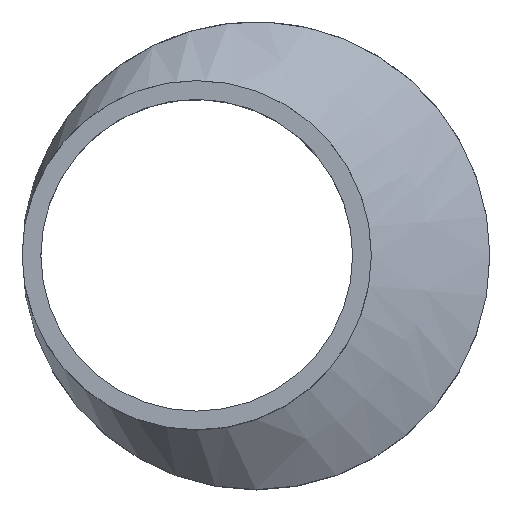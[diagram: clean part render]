
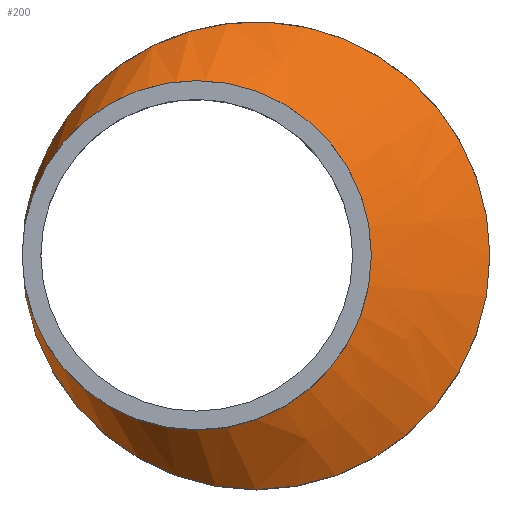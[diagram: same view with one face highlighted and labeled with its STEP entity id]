
A CAD part, top view. The second image highlights one B-rep face of the part: STEP entity #200.
In plain terms, the highlighted free-form (B-spline) face has degree [1, 2] with [2, 9] control points.
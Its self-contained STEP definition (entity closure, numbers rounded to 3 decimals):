
#15=B_SPLINE_CURVE_WITH_KNOTS($,1,(#381,#382),.UNSPECIFIED.,.F.,.F.,(2,
2),(-0.382,0.),.UNSPECIFIED.);
#17=(
BOUNDED_SURFACE()
B_SPLINE_SURFACE(1,2,((#359,#360,#361,#362,#363,#364,#365,#366,#367),(#368,
#369,#370,#371,#372,#373,#374,#375,#376)),.UNSPECIFIED.,.F.,.T.,.F.)
B_SPLINE_SURFACE_WITH_KNOTS((2,2),(3,2,2,2,3),(-1.188,0.739),
(-3.142,-1.571,0.,1.571,3.142),
 .UNSPECIFIED.)
GEOMETRIC_REPRESENTATION_ITEM()
RATIONAL_B_SPLINE_SURFACE(((1.,0.707,1.,0.707,1.,
0.707,1.,0.707,1.),(1.,0.707,1.,0.707,
1.,0.707,1.,0.707,1.)))
REPRESENTATION_ITEM($)
SURFACE()
);
#47=FACE_OUTER_BOUND($,#67,.T.);
#67=EDGE_LOOP($,(#157,#158,#159,#160,#161,#162));
#83=CIRCLE($,#221,37.5);
#84=CIRCLE($,#222,37.5);
#91=CIRCLE($,#231,28.);
#92=CIRCLE($,#232,28.);
#101=VERTEX_POINT($,#321);
#102=VERTEX_POINT($,#322);
#109=VERTEX_POINT($,#377);
#110=VERTEX_POINT($,#378);
#119=EDGE_CURVE($,#101,#102,#83,.T.);
#120=EDGE_CURVE($,#102,#101,#84,.T.);
#128=EDGE_CURVE($,#109,#110,#91,.T.);
#129=EDGE_CURVE($,#110,#109,#92,.T.);
#130=EDGE_CURVE($,#110,#102,#15,.T.);
#157=ORIENTED_EDGE($,*,*,#128,.F.);
#158=ORIENTED_EDGE($,*,*,#129,.F.);
#159=ORIENTED_EDGE($,*,*,#130,.T.);
#160=ORIENTED_EDGE($,*,*,#119,.F.);
#161=ORIENTED_EDGE($,*,*,#120,.F.);
#162=ORIENTED_EDGE($,*,*,#130,.F.);
#200=ADVANCED_FACE($,(#47),#17,.F.);
#221=AXIS2_PLACEMENT_3D($,#323,#266,#267);
#222=AXIS2_PLACEMENT_3D($,#324,#268,#269);
#231=AXIS2_PLACEMENT_3D($,#379,#286,#287);
#232=AXIS2_PLACEMENT_3D($,#380,#288,#289);
#266=DIRECTION('center_axis',(0.,0.,-1.));
#267=DIRECTION('ref_axis',(-1.,0.,0.));
#268=DIRECTION('center_axis',(0.,0.,-1.));
#269=DIRECTION('ref_axis',(-1.,0.,0.));
#286=DIRECTION('center_axis',(0.,0.,1.));
#287=DIRECTION('ref_axis',(-1.,0.,0.));
#288=DIRECTION('center_axis',(0.,0.,1.));
#289=DIRECTION('ref_axis',(-1.,0.,0.));
#321=CARTESIAN_POINT('',(37.5,0.,37.));
#322=CARTESIAN_POINT('',(-16.532,33.659,37.));
#323=CARTESIAN_POINT('Origin',(0.,0.,37.));
#324=CARTESIAN_POINT('Origin',(0.,0.,37.));
#359=CARTESIAN_POINT('Ctrl Pts',(0.,60.198,
12.101));
#360=CARTESIAN_POINT('Ctrl Pts',(-37.5,60.198,-12.798));
#361=CARTESIAN_POINT('Ctrl Pts',(-37.5,0.,-12.798));
#362=CARTESIAN_POINT('Ctrl Pts',(-37.5,-60.198,-12.798));
#363=CARTESIAN_POINT('Ctrl Pts',(0.,-60.198,
12.101));
#364=CARTESIAN_POINT('Ctrl Pts',(37.5,-60.198,37.));
#365=CARTESIAN_POINT('Ctrl Pts',(37.5,0.,37.));
#366=CARTESIAN_POINT('Ctrl Pts',(37.5,60.198,37.));
#367=CARTESIAN_POINT('Ctrl Pts',(0.,60.198,
12.101));
#368=CARTESIAN_POINT('Ctrl Pts',(-26.815,17.153,52.486));
#369=CARTESIAN_POINT('Ctrl Pts',(-37.5,17.153,45.391));
#370=CARTESIAN_POINT('Ctrl Pts',(-37.5,0.,45.391));
#371=CARTESIAN_POINT('Ctrl Pts',(-37.5,-17.153,45.391));
#372=CARTESIAN_POINT('Ctrl Pts',(-26.815,-17.153,52.486));
#373=CARTESIAN_POINT('Ctrl Pts',(-16.129,-17.153,59.581));
#374=CARTESIAN_POINT('Ctrl Pts',(-16.129,0.,59.581));
#375=CARTESIAN_POINT('Ctrl Pts',(-16.129,17.153,59.581));
#376=CARTESIAN_POINT('Ctrl Pts',(-26.815,17.153,52.486));
#377=CARTESIAN_POINT('',(18.5,0.,45.));
#378=CARTESIAN_POINT('',(-21.844,25.132,45.));
#379=CARTESIAN_POINT('Origin',(-9.5,0.,45.));
#380=CARTESIAN_POINT('Origin',(-9.5,0.,45.));
#381=CARTESIAN_POINT('Ctrl Pts',(-21.844,25.132,45.));
#382=CARTESIAN_POINT('Ctrl Pts',(-16.532,33.659,37.));
